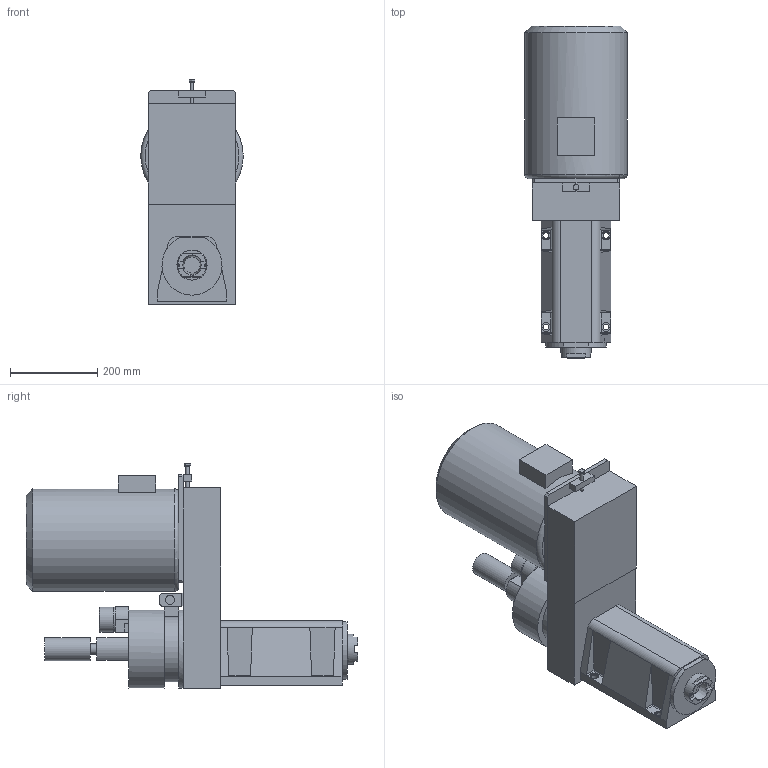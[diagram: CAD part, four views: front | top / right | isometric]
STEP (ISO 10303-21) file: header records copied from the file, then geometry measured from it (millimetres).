
FILE_DESCRIPTION((''),'2;1');
FILE_NAME('C:\VaultWork\Zeichnungen\Maßblätter\Spindeleinheiten\BF4\M01993-3-0 Maßblatt BF4-SK40 IKZ pneum Werkzspanner Z-Laterne.stp','2016-08-19T15:42:44',('AZUBI'),(''),'Autodesk Inventor 2012','Autodesk Inventor 2012','');
FILE_SCHEMA(('AUTOMOTIVE_DESIGN { 1 0 10303 214 1 1 1 1 }'));
Length unit declared in the file: millimetre
Products named in the file (1): M01993-3-0 Maßblatt BF4-SK40 IKZ pneum Werkzspanner Z-Laterne
Bounding box: 235 x 761.2 x 515.3 mm (x, y, z)
Volume: 32968635.6 mm3; surface area: 963782.1 mm2
Topology: 2 solids, 2 shells, 194 faces, 467 edges, 295 vertices
Faces by surface type: plane 130, cylinder 45, cone 18, torus 1
Full cylindrical faces by diameter (mm): 4.134 x1, 4.917 x2, 8 x2, 11.63 x1, 13.5 x4, 20 x4, 20.5 x2, 24 x1, 53 x1, 57 x1, 58 x1, 69 x1, 180 x2, 235 x1
Entity records: 5488 total; most frequent: CARTESIAN_POINT 959, DIRECTION 917, ORIENTED_EDGE 850, EDGE_CURVE 425, AXIS2_PLACEMENT_3D 326, VERTEX_POINT 284, VECTOR 265, LINE 265
